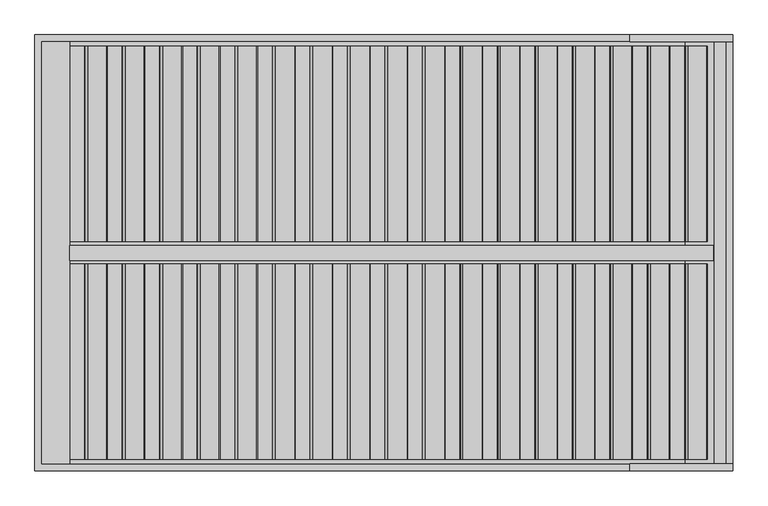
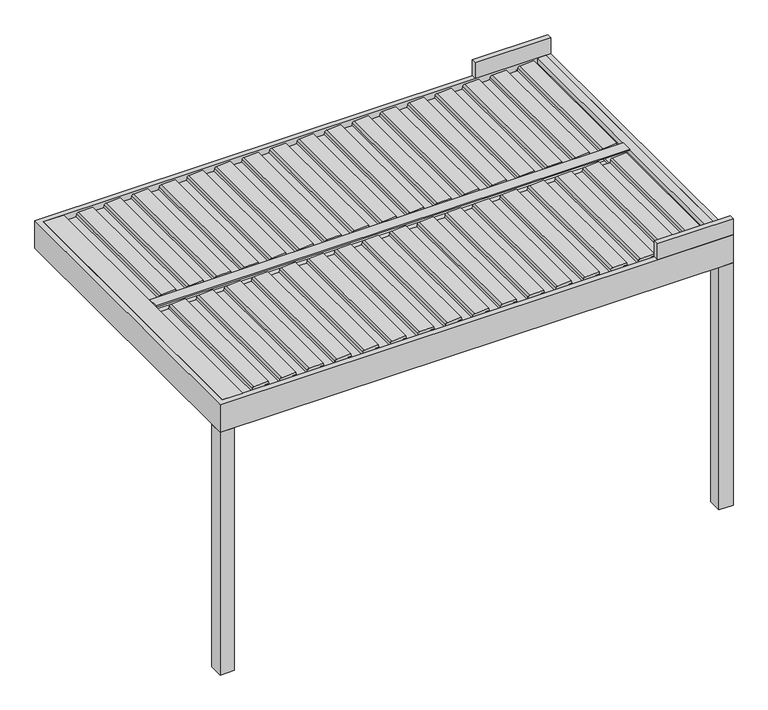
"""IFC4 building model written with IfcOpenShell, lengths in millimetres: proxy geometry, Renson_Algarve_Single Unit With Intermediate Beam : Algarve - Single Unit With Intermediate Beam."""

from ifc_helpers import new_model, si_unit, point, frame, frame_2d, origin, origin_with_axes, place, context, project, spatial, polyline, circle_curve, trimmed, segment, composite_curve, outline, extrude, faceted_brep, source, transform, mapped, element, save


def generic_models_9d3f019d(model_context):
    return source(origin(), model_context, "Body", "SolidModel", [
        extrude(outline(composite_curve([segment(polyline([(2188.35, 1609.6114167), (2216.01198, 1612.0315264), (2217.3970364, 1640.8667769), (2236.8911096, 1637.4294458), (2231.6075693, 1527.4323309)]), True, "CONTINUOUS"), segment(trimmed(circle_curve(frame_2d((2216.6248435, 1528.1520029)), 15.0), [point((2231.6075693, 1527.4323309))], [point((2219.2295662, 1513.3798866))], False, "CARTESIAN"), True, "CONTINUOUS"), segment(polyline([(2219.2295662, 1513.3798866), (2200.0, 1509.9891952), (2200.0, 1422.2534192), (2217.0788237, 1419.2419618), (2216.3450182, 1403.9649913), (2188.35, 1401.5157446), (2188.35, 1609.6114167)]), True, "CONTINUOUS")], self_intersect=False)), frame((0.0, -1810.0, 0.0), z_axis=(0.0, 1.0, 0.0), x_axis=(0.0, 0.0, 1.0)), (0.0, 0.0, 1.0), 1120.0),
        extrude(outline(composite_curve([segment(polyline([(2188.35, 1394.600612), (2216.01198, 1397.0207216), (2217.3970364, 1425.8559721), (2236.8911096, 1422.418641), (2231.6075693, 1312.4215261)]), True, "CONTINUOUS"), segment(trimmed(circle_curve(frame_2d((2216.6248435, 1313.1411981)), 15.0), [point((2231.6075693, 1312.4215261))], [point((2219.2295662, 1298.3690818))], False, "CARTESIAN"), True, "CONTINUOUS"), segment(polyline([(2219.2295662, 1298.3690818), (2200.0, 1294.9783904), (2200.0, 1207.2426144), (2217.0788237, 1204.231157), (2216.3450182, 1188.9541865), (2188.35, 1186.5049398), (2188.35, 1394.600612)]), True, "CONTINUOUS")], self_intersect=False)), frame((0.0, -1810.0, 0.0), z_axis=(0.0, 1.0, 0.0), x_axis=(0.0, 0.0, 1.0)), (0.0, 0.0, 1.0), 1120.0),
        extrude(outline(composite_curve([segment(polyline([(2188.35, 1179.5898072), (2216.01198, 1182.0099168), (2217.3970364, 1210.8451673), (2236.8911096, 1207.4078362), (2231.6075693, 1097.4107214)]), True, "CONTINUOUS"), segment(trimmed(circle_curve(frame_2d((2216.6248435, 1098.1303933)), 15.0), [point((2231.6075693, 1097.4107214))], [point((2219.2295662, 1083.358277))], False, "CARTESIAN"), True, "CONTINUOUS"), segment(polyline([(2219.2295662, 1083.358277), (2200.0, 1079.9675857), (2200.0, 992.2318096), (2217.0788237, 989.2203522), (2216.3450182, 973.9433817), (2188.35, 971.494135), (2188.35, 1179.5898072)]), True, "CONTINUOUS")], self_intersect=False)), frame((0.0, -1810.0, 0.0), z_axis=(0.0, 1.0, 0.0), x_axis=(0.0, 0.0, 1.0)), (0.0, 0.0, 1.0), 1120.0),
        extrude(outline(composite_curve([segment(polyline([(2188.35, 964.5790024), (2216.01198, 966.999112), (2217.3970364, 995.8343625), (2236.8911096, 992.3970314), (2231.6075693, 882.3999166)]), True, "CONTINUOUS"), segment(trimmed(circle_curve(frame_2d((2216.6248435, 883.1195885)), 15.0), [point((2231.6075693, 882.3999166))], [point((2219.2295662, 868.3474722))], False, "CARTESIAN"), True, "CONTINUOUS"), segment(polyline([(2219.2295662, 868.3474722), (2200.0, 864.9567809), (2200.0, 777.2210048), (2217.0788237, 774.2095474), (2216.3450182, 758.932577), (2188.35, 756.4833302), (2188.35, 964.5790024)]), True, "CONTINUOUS")], self_intersect=False)), frame((0.0, -1810.0, 0.0), z_axis=(0.0, 1.0, 0.0), x_axis=(0.0, 0.0, 1.0)), (0.0, 0.0, 1.0), 1120.0),
        extrude(outline(composite_curve([segment(polyline([(2188.35, 749.5681976), (2216.01198, 751.9883073), (2217.3970364, 780.8235577), (2236.8911096, 777.3862267), (2231.6075693, 667.3891118)]), True, "CONTINUOUS"), segment(trimmed(circle_curve(frame_2d((2216.6248435, 668.1087837)), 15.0), [point((2231.6075693, 667.3891118))], [point((2219.2295662, 653.3366674))], False, "CARTESIAN"), True, "CONTINUOUS"), segment(polyline([(2219.2295662, 653.3366674), (2200.0, 649.9459761), (2200.0, 562.2102001), (2217.0788237, 559.1987426), (2216.3450182, 543.9217722), (2188.35, 541.4725254), (2188.35, 749.5681976)]), True, "CONTINUOUS")], self_intersect=False)), frame((0.0, -1810.0, 0.0), z_axis=(0.0, 1.0, 0.0), x_axis=(0.0, 0.0, 1.0)), (0.0, 0.0, 1.0), 1120.0),
        extrude(outline(composite_curve([segment(polyline([(2188.35, 534.5573928), (2216.01198, 536.9775025), (2217.3970364, 565.8127529), (2236.8911096, 562.3754219), (2231.6075693, 452.378307)]), True, "CONTINUOUS"), segment(trimmed(circle_curve(frame_2d((2216.6248435, 453.0979789)), 15.0), [point((2231.6075693, 452.378307))], [point((2219.2295662, 438.3258627))], False, "CARTESIAN"), True, "CONTINUOUS"), segment(polyline([(2219.2295662, 438.3258627), (2200.0, 434.9351713), (2200.0, 347.1993953), (2217.0788237, 344.1879379), (2216.3450182, 328.9109674), (2188.35, 326.4617207), (2188.35, 534.5573928)]), True, "CONTINUOUS")], self_intersect=False)), frame((0.0, -1810.0, 0.0), z_axis=(0.0, 1.0, 0.0), x_axis=(0.0, 0.0, 1.0)), (0.0, 0.0, 1.0), 1120.0),
        extrude(outline(composite_curve([segment(polyline([(2188.35, 319.546588), (2216.01198, 321.9666977), (2217.3970364, 350.8019482), (2236.8911096, 347.3646171), (2231.6075693, 237.3675022)]), True, "CONTINUOUS"), segment(trimmed(circle_curve(frame_2d((2216.6248435, 238.0871742)), 15.0), [point((2231.6075693, 237.3675022))], [point((2219.2295662, 223.3150579))], False, "CARTESIAN"), True, "CONTINUOUS"), segment(polyline([(2219.2295662, 223.3150579), (2200.0, 219.9243665), (2200.0, 132.1885905), (2217.0788237, 129.1771331), (2216.3450182, 113.9001626), (2188.35, 111.4509159), (2188.35, 319.546588)]), True, "CONTINUOUS")], self_intersect=False)), frame((0.0, -1810.0, 0.0), z_axis=(0.0, 1.0, 0.0), x_axis=(0.0, 0.0, 1.0)), (0.0, 0.0, 1.0), 1120.0),
        extrude(outline(composite_curve([segment(polyline([(2188.35, 104.5357833), (2216.01198, 106.9558929), (2217.3970364, 135.7911434), (2236.8911096, 132.3538123), (2231.6075693, 22.3566975)]), True, "CONTINUOUS"), segment(trimmed(circle_curve(frame_2d((2216.6248435, 23.0763694)), 15.0), [point((2231.6075693, 22.3566975))], [point((2219.2295662, 8.3042531))], False, "CARTESIAN"), True, "CONTINUOUS"), segment(polyline([(2219.2295662, 8.3042531), (2200.0, 4.9135617), (2200.0, -82.8222143), (2217.0788237, -85.8336717), (2216.3450182, -101.1106422), (2188.35, -103.5598889), (2188.35, 104.5357833)]), True, "CONTINUOUS")], self_intersect=False)), frame((0.0, -1810.0, 0.0), z_axis=(0.0, 1.0, 0.0), x_axis=(0.0, 0.0, 1.0)), (0.0, 0.0, 1.0), 1120.0),
        extrude(outline(composite_curve([segment(polyline([(2188.35, -110.4750215), (2216.01198, -108.0549119), (2217.3970364, -79.2196614), (2236.8911096, -82.6569925), (2231.6075693, -192.6541073)]), True, "CONTINUOUS"), segment(trimmed(circle_curve(frame_2d((2216.6248435, -191.9344354)), 15.0), [point((2231.6075693, -192.6541073))], [point((2219.2295662, -206.7065517))], False, "CARTESIAN"), True, "CONTINUOUS"), segment(polyline([(2219.2295662, -206.7065517), (2200.0, -210.097243), (2200.0, -297.8330191), (2217.0788237, -300.8444765), (2216.3450182, -316.121447), (2188.35, -318.5706937), (2188.35, -110.4750215)]), True, "CONTINUOUS")], self_intersect=False)), frame((0.0, -1810.0, 0.0), z_axis=(0.0, 1.0, 0.0), x_axis=(0.0, 0.0, 1.0)), (0.0, 0.0, 1.0), 1120.0),
        extrude(outline(composite_curve([segment(polyline([(2188.35, -325.4858263), (2216.01198, -323.0657166), (2217.3970364, -294.2304662), (2236.8911096, -297.6677973), (2231.6075693, -407.6649121)]), True, "CONTINUOUS"), segment(trimmed(circle_curve(frame_2d((2216.6248435, -406.9452402)), 15.0), [point((2231.6075693, -407.6649121))], [point((2219.2295662, -421.7173565))], False, "CARTESIAN"), True, "CONTINUOUS"), segment(polyline([(2219.2295662, -421.7173565), (2200.0, -425.1080478), (2200.0, -512.8438238), (2217.0788237, -515.8552813), (2216.3450182, -531.1322517), (2188.35, -533.5814985), (2188.35, -325.4858263)]), True, "CONTINUOUS")], self_intersect=False)), frame((0.0, -1810.0, 0.0), z_axis=(0.0, 1.0, 0.0), x_axis=(0.0, 0.0, 1.0)), (0.0, 0.0, 1.0), 1120.0),
        extrude(outline(composite_curve([segment(polyline([(2188.35, -540.4966311), (2216.01198, -538.0765214), (2217.3970364, -509.241271), (2236.8911096, -512.678602), (2231.6075693, -622.6757169)]), True, "CONTINUOUS"), segment(trimmed(circle_curve(frame_2d((2216.6248435, -621.956045)), 15.0), [point((2231.6075693, -622.6757169))], [point((2219.2295662, -636.7281613))], False, "CARTESIAN"), True, "CONTINUOUS"), segment(polyline([(2219.2295662, -636.7281613), (2200.0, -640.1188526), (2200.0, -727.8546286), (2217.0788237, -730.866086), (2216.3450182, -746.1430565), (2188.35, -748.5923032), (2188.35, -540.4966311)]), True, "CONTINUOUS")], self_intersect=False)), frame((0.0, -1810.0, 0.0), z_axis=(0.0, 1.0, 0.0), x_axis=(0.0, 0.0, 1.0)), (0.0, 0.0, 1.0), 1120.0),
        extrude(outline(composite_curve([segment(polyline([(2188.35, -755.5074359), (2216.01198, -753.0873262), (2217.3970364, -724.2520757), (2236.8911096, -727.6894068), (2231.6075693, -837.6865217)]), True, "CONTINUOUS"), segment(trimmed(circle_curve(frame_2d((2216.6248435, -836.9668497)), 15.0), [point((2231.6075693, -837.6865217))], [point((2219.2295662, -851.738966))], False, "CARTESIAN"), True, "CONTINUOUS"), segment(polyline([(2219.2295662, -851.738966), (2200.0, -855.1296574), (2200.0, -942.8654334), (2217.0788237, -945.8768908), (2216.3450182, -961.1538613), (2188.35, -963.603108), (2188.35, -755.5074359)]), True, "CONTINUOUS")], self_intersect=False)), frame((0.0, -1810.0, 0.0), z_axis=(0.0, 1.0, 0.0), x_axis=(0.0, 0.0, 1.0)), (0.0, 0.0, 1.0), 1120.0),
        extrude(outline(composite_curve([segment(polyline([(2188.35, -970.5182406), (2216.01198, -968.098131), (2217.3970364, -939.2628805), (2236.8911096, -942.7002116), (2231.6075693, -1052.6973265)]), True, "CONTINUOUS"), segment(trimmed(circle_curve(frame_2d((2216.6248435, -1051.9776545)), 15.0), [point((2231.6075693, -1052.6973265))], [point((2219.2295662, -1066.7497708))], False, "CARTESIAN"), True, "CONTINUOUS"), segment(polyline([(2219.2295662, -1066.7497708), (2200.0, -1070.1404622), (2200.0, -1157.8762382), (2217.0788237, -1160.8876956), (2216.3450182, -1176.1646661), (2188.35, -1178.6139128), (2188.35, -970.5182406)]), True, "CONTINUOUS")], self_intersect=False)), frame((0.0, -1810.0, 0.0), z_axis=(0.0, 1.0, 0.0), x_axis=(0.0, 0.0, 1.0)), (0.0, 0.0, 1.0), 1120.0),
        extrude(outline(composite_curve([segment(polyline([(2188.35, -1185.5290454), (2216.01198, -1183.1089358), (2217.3970364, -1154.2736853), (2236.8911096, -1157.7110164), (2231.6075693, -1267.7081312)]), True, "CONTINUOUS"), segment(trimmed(circle_curve(frame_2d((2216.6248435, -1266.9884593)), 15.0), [point((2231.6075693, -1267.7081312))], [point((2219.2295662, -1281.7605756))], False, "CARTESIAN"), True, "CONTINUOUS"), segment(polyline([(2219.2295662, -1281.7605756), (2200.0, -1285.1512669), (2200.0, -1372.887043), (2217.0788237, -1375.8985004), (2216.3450182, -1391.1754709), (2188.35, -1393.6247176), (2188.35, -1185.5290454)]), True, "CONTINUOUS")], self_intersect=False)), frame((0.0, -1810.0, 0.0), z_axis=(0.0, 1.0, 0.0), x_axis=(0.0, 0.0, 1.0)), (0.0, 0.0, 1.0), 1120.0),
        extrude(outline(composite_curve([segment(polyline([(2188.35, -1400.5398502), (2216.01198, -1398.1197405), (2217.3970364, -1369.2844901), (2236.8911096, -1372.7218212), (2231.6075693, -1482.718936)]), True, "CONTINUOUS"), segment(trimmed(circle_curve(frame_2d((2216.6248435, -1481.9992641)), 15.0), [point((2231.6075693, -1482.718936))], [point((2219.2295662, -1496.7713804))], False, "CARTESIAN"), True, "CONTINUOUS"), segment(polyline([(2219.2295662, -1496.7713804), (2200.0, -1500.1620717), (2200.0, -1587.8978478), (2217.0788237, -1590.9093052), (2216.3450182, -1606.1862756), (2188.35, -1608.6355224), (2188.35, -1400.5398502)]), True, "CONTINUOUS")], self_intersect=False)), frame((0.0, -1810.0, 0.0), z_axis=(0.0, 1.0, 0.0), x_axis=(0.0, 0.0, 1.0)), (0.0, 0.0, 1.0), 1120.0),
        extrude(outline(composite_curve([segment(polyline([(2188.35, 1824.6222215), (2216.01198, 1827.0423312), (2217.3970364, 1855.8775816), (2236.8911096, 1852.4402506), (2231.6075693, 1742.4431357)]), True, "CONTINUOUS"), segment(trimmed(circle_curve(frame_2d((2216.6248435, 1743.1628076)), 15.0), [point((2231.6075693, 1742.4431357))], [point((2219.2295662, 1728.3906913))], False, "CARTESIAN"), True, "CONTINUOUS"), segment(polyline([(2219.2295662, 1728.3906913), (2200.0, 1725.0), (2200.0, 1637.264224), (2217.0788237, 1634.2527666), (2216.3450182, 1618.9757961), (2188.35, 1616.5265494), (2188.35, 1824.6222215)]), True, "CONTINUOUS")], self_intersect=False)), frame((0.0, -1810.0, 0.0), z_axis=(0.0, 1.0, 0.0), x_axis=(0.0, 0.0, 1.0)), (0.0, 0.0, 1.0), 1120.0),
        extrude(outline(composite_curve([segment(polyline([(2188.35, -1615.550655), (2216.01198, -1613.1305453), (2217.3970364, -1584.2952949), (2236.8911096, -1587.7326259), (2231.6075693, -1697.7297408)]), True, "CONTINUOUS"), segment(trimmed(circle_curve(frame_2d((2216.6248435, -1697.0100689)), 15.0), [point((2231.6075693, -1697.7297408))], [point((2219.2295662, -1711.7821852))], False, "CARTESIAN"), True, "CONTINUOUS"), segment(polyline([(2219.2295662, -1711.7821852), (2200.0, -1715.1728765), (2200.0, -1802.9086525), (2217.0788237, -1805.9201099), (2216.3450182, -1821.1970804), (2188.35, -1823.6463271), (2188.35, -1615.550655)]), True, "CONTINUOUS")], self_intersect=False)), frame((0.0, -1810.0, 0.0), z_axis=(0.0, 1.0, 0.0), x_axis=(0.0, 0.0, 1.0)), (0.0, 0.0, 1.0), 1120.0),
        extrude(outline(composite_curve([segment(polyline([(2188.35, 1609.6114167), (2216.01198, 1612.0315264), (2217.3970364, 1640.8667769), (2236.8911096, 1637.4294458), (2231.6075693, 1527.4323309)]), True, "CONTINUOUS"), segment(trimmed(circle_curve(frame_2d((2216.6248435, 1528.1520029)), 15.0), [point((2231.6075693, 1527.4323309))], [point((2219.2295662, 1513.3798866))], False, "CARTESIAN"), True, "CONTINUOUS"), segment(polyline([(2219.2295662, 1513.3798866), (2200.0, 1509.9891952), (2200.0, 1422.2534192), (2217.0788237, 1419.2419618), (2216.3450182, 1403.9649913), (2188.35, 1401.5157446), (2188.35, 1609.6114167)]), True, "CONTINUOUS")], self_intersect=False)), frame((0.0, -560.0, 0.0), z_axis=(0.0, 1.0, 0.0), x_axis=(0.0, 0.0, 1.0)), (0.0, 0.0, 1.0), 1120.0),
        extrude(outline(composite_curve([segment(polyline([(2188.35, 1394.600612), (2216.01198, 1397.0207216), (2217.3970364, 1425.8559721), (2236.8911096, 1422.418641), (2231.6075693, 1312.4215261)]), True, "CONTINUOUS"), segment(trimmed(circle_curve(frame_2d((2216.6248435, 1313.1411981)), 15.0), [point((2231.6075693, 1312.4215261))], [point((2219.2295662, 1298.3690818))], False, "CARTESIAN"), True, "CONTINUOUS"), segment(polyline([(2219.2295662, 1298.3690818), (2200.0, 1294.9783904), (2200.0, 1207.2426144), (2217.0788237, 1204.231157), (2216.3450182, 1188.9541865), (2188.35, 1186.5049398), (2188.35, 1394.600612)]), True, "CONTINUOUS")], self_intersect=False)), frame((0.0, -560.0, 0.0), z_axis=(0.0, 1.0, 0.0), x_axis=(0.0, 0.0, 1.0)), (0.0, 0.0, 1.0), 1120.0),
        extrude(outline(composite_curve([segment(polyline([(2188.35, 1179.5898072), (2216.01198, 1182.0099168), (2217.3970364, 1210.8451673), (2236.8911096, 1207.4078362), (2231.6075693, 1097.4107214)]), True, "CONTINUOUS"), segment(trimmed(circle_curve(frame_2d((2216.6248435, 1098.1303933)), 15.0), [point((2231.6075693, 1097.4107214))], [point((2219.2295662, 1083.358277))], False, "CARTESIAN"), True, "CONTINUOUS"), segment(polyline([(2219.2295662, 1083.358277), (2200.0, 1079.9675857), (2200.0, 992.2318096), (2217.0788237, 989.2203522), (2216.3450182, 973.9433817), (2188.35, 971.494135), (2188.35, 1179.5898072)]), True, "CONTINUOUS")], self_intersect=False)), frame((0.0, -560.0, 0.0), z_axis=(0.0, 1.0, 0.0), x_axis=(0.0, 0.0, 1.0)), (0.0, 0.0, 1.0), 1120.0),
        extrude(outline(composite_curve([segment(polyline([(2188.35, 964.5790024), (2216.01198, 966.999112), (2217.3970364, 995.8343625), (2236.8911096, 992.3970314), (2231.6075693, 882.3999166)]), True, "CONTINUOUS"), segment(trimmed(circle_curve(frame_2d((2216.6248435, 883.1195885)), 15.0), [point((2231.6075693, 882.3999166))], [point((2219.2295662, 868.3474722))], False, "CARTESIAN"), True, "CONTINUOUS"), segment(polyline([(2219.2295662, 868.3474722), (2200.0, 864.9567809), (2200.0, 777.2210048), (2217.0788237, 774.2095474), (2216.3450182, 758.932577), (2188.35, 756.4833302), (2188.35, 964.5790024)]), True, "CONTINUOUS")], self_intersect=False)), frame((0.0, -560.0, 0.0), z_axis=(0.0, 1.0, 0.0), x_axis=(0.0, 0.0, 1.0)), (0.0, 0.0, 1.0), 1120.0),
        extrude(outline(composite_curve([segment(polyline([(2188.35, 749.5681976), (2216.01198, 751.9883073), (2217.3970364, 780.8235577), (2236.8911096, 777.3862267), (2231.6075693, 667.3891118)]), True, "CONTINUOUS"), segment(trimmed(circle_curve(frame_2d((2216.6248435, 668.1087837)), 15.0), [point((2231.6075693, 667.3891118))], [point((2219.2295662, 653.3366674))], False, "CARTESIAN"), True, "CONTINUOUS"), segment(polyline([(2219.2295662, 653.3366674), (2200.0, 649.9459761), (2200.0, 562.2102001), (2217.0788237, 559.1987426), (2216.3450182, 543.9217722), (2188.35, 541.4725254), (2188.35, 749.5681976)]), True, "CONTINUOUS")], self_intersect=False)), frame((0.0, -560.0, 0.0), z_axis=(0.0, 1.0, 0.0), x_axis=(0.0, 0.0, 1.0)), (0.0, 0.0, 1.0), 1120.0),
        extrude(outline(composite_curve([segment(polyline([(2188.35, 534.5573928), (2216.01198, 536.9775025), (2217.3970364, 565.8127529), (2236.8911096, 562.3754219), (2231.6075693, 452.378307)]), True, "CONTINUOUS"), segment(trimmed(circle_curve(frame_2d((2216.6248435, 453.0979789)), 15.0), [point((2231.6075693, 452.378307))], [point((2219.2295662, 438.3258627))], False, "CARTESIAN"), True, "CONTINUOUS"), segment(polyline([(2219.2295662, 438.3258627), (2200.0, 434.9351713), (2200.0, 347.1993953), (2217.0788237, 344.1879379), (2216.3450182, 328.9109674), (2188.35, 326.4617207), (2188.35, 534.5573928)]), True, "CONTINUOUS")], self_intersect=False)), frame((0.0, -560.0, 0.0), z_axis=(0.0, 1.0, 0.0), x_axis=(0.0, 0.0, 1.0)), (0.0, 0.0, 1.0), 1120.0),
        extrude(outline(composite_curve([segment(polyline([(2188.35, 319.546588), (2216.01198, 321.9666977), (2217.3970364, 350.8019482), (2236.8911096, 347.3646171), (2231.6075693, 237.3675022)]), True, "CONTINUOUS"), segment(trimmed(circle_curve(frame_2d((2216.6248435, 238.0871742)), 15.0), [point((2231.6075693, 237.3675022))], [point((2219.2295662, 223.3150579))], False, "CARTESIAN"), True, "CONTINUOUS"), segment(polyline([(2219.2295662, 223.3150579), (2200.0, 219.9243665), (2200.0, 132.1885905), (2217.0788237, 129.1771331), (2216.3450182, 113.9001626), (2188.35, 111.4509159), (2188.35, 319.546588)]), True, "CONTINUOUS")], self_intersect=False)), frame((0.0, -560.0, 0.0), z_axis=(0.0, 1.0, 0.0), x_axis=(0.0, 0.0, 1.0)), (0.0, 0.0, 1.0), 1120.0),
        extrude(outline(composite_curve([segment(polyline([(2188.35, 104.5357833), (2216.01198, 106.9558929), (2217.3970364, 135.7911434), (2236.8911096, 132.3538123), (2231.6075693, 22.3566975)]), True, "CONTINUOUS"), segment(trimmed(circle_curve(frame_2d((2216.6248435, 23.0763694)), 15.0), [point((2231.6075693, 22.3566975))], [point((2219.2295662, 8.3042531))], False, "CARTESIAN"), True, "CONTINUOUS"), segment(polyline([(2219.2295662, 8.3042531), (2200.0, 4.9135617), (2200.0, -82.8222143), (2217.0788237, -85.8336717), (2216.3450182, -101.1106422), (2188.35, -103.5598889), (2188.35, 104.5357833)]), True, "CONTINUOUS")], self_intersect=False)), frame((0.0, -560.0, 0.0), z_axis=(0.0, 1.0, 0.0), x_axis=(0.0, 0.0, 1.0)), (0.0, 0.0, 1.0), 1120.0),
        extrude(outline(composite_curve([segment(polyline([(2188.35, -110.4750215), (2216.01198, -108.0549119), (2217.3970364, -79.2196614), (2236.8911096, -82.6569925), (2231.6075693, -192.6541073)]), True, "CONTINUOUS"), segment(trimmed(circle_curve(frame_2d((2216.6248435, -191.9344354)), 15.0), [point((2231.6075693, -192.6541073))], [point((2219.2295662, -206.7065517))], False, "CARTESIAN"), True, "CONTINUOUS"), segment(polyline([(2219.2295662, -206.7065517), (2200.0, -210.097243), (2200.0, -297.8330191), (2217.0788237, -300.8444765), (2216.3450182, -316.121447), (2188.35, -318.5706937), (2188.35, -110.4750215)]), True, "CONTINUOUS")], self_intersect=False)), frame((0.0, -560.0, 0.0), z_axis=(0.0, 1.0, 0.0), x_axis=(0.0, 0.0, 1.0)), (0.0, 0.0, 1.0), 1120.0),
        extrude(outline(composite_curve([segment(polyline([(2188.35, -325.4858263), (2216.01198, -323.0657166), (2217.3970364, -294.2304662), (2236.8911096, -297.6677973), (2231.6075693, -407.6649121)]), True, "CONTINUOUS"), segment(trimmed(circle_curve(frame_2d((2216.6248435, -406.9452402)), 15.0), [point((2231.6075693, -407.6649121))], [point((2219.2295662, -421.7173565))], False, "CARTESIAN"), True, "CONTINUOUS"), segment(polyline([(2219.2295662, -421.7173565), (2200.0, -425.1080478), (2200.0, -512.8438238), (2217.0788237, -515.8552813), (2216.3450182, -531.1322517), (2188.35, -533.5814985), (2188.35, -325.4858263)]), True, "CONTINUOUS")], self_intersect=False)), frame((0.0, -560.0, 0.0), z_axis=(0.0, 1.0, 0.0), x_axis=(0.0, 0.0, 1.0)), (0.0, 0.0, 1.0), 1120.0),
        extrude(outline(composite_curve([segment(polyline([(2188.35, -540.4966311), (2216.01198, -538.0765214), (2217.3970364, -509.241271), (2236.8911096, -512.678602), (2231.6075693, -622.6757169)]), True, "CONTINUOUS"), segment(trimmed(circle_curve(frame_2d((2216.6248435, -621.956045)), 15.0), [point((2231.6075693, -622.6757169))], [point((2219.2295662, -636.7281613))], False, "CARTESIAN"), True, "CONTINUOUS"), segment(polyline([(2219.2295662, -636.7281613), (2200.0, -640.1188526), (2200.0, -727.8546286), (2217.0788237, -730.866086), (2216.3450182, -746.1430565), (2188.35, -748.5923032), (2188.35, -540.4966311)]), True, "CONTINUOUS")], self_intersect=False)), frame((0.0, -560.0, 0.0), z_axis=(0.0, 1.0, 0.0), x_axis=(0.0, 0.0, 1.0)), (0.0, 0.0, 1.0), 1120.0),
        extrude(outline(composite_curve([segment(polyline([(2188.35, -755.5074359), (2216.01198, -753.0873262), (2217.3970364, -724.2520757), (2236.8911096, -727.6894068), (2231.6075693, -837.6865217)]), True, "CONTINUOUS"), segment(trimmed(circle_curve(frame_2d((2216.6248435, -836.9668497)), 15.0), [point((2231.6075693, -837.6865217))], [point((2219.2295662, -851.738966))], False, "CARTESIAN"), True, "CONTINUOUS"), segment(polyline([(2219.2295662, -851.738966), (2200.0, -855.1296574), (2200.0, -942.8654334), (2217.0788237, -945.8768908), (2216.3450182, -961.1538613), (2188.35, -963.603108), (2188.35, -755.5074359)]), True, "CONTINUOUS")], self_intersect=False)), frame((0.0, -560.0, 0.0), z_axis=(0.0, 1.0, 0.0), x_axis=(0.0, 0.0, 1.0)), (0.0, 0.0, 1.0), 1120.0),
        extrude(outline(composite_curve([segment(polyline([(2188.35, -970.5182406), (2216.01198, -968.098131), (2217.3970364, -939.2628805), (2236.8911096, -942.7002116), (2231.6075693, -1052.6973265)]), True, "CONTINUOUS"), segment(trimmed(circle_curve(frame_2d((2216.6248435, -1051.9776545)), 15.0), [point((2231.6075693, -1052.6973265))], [point((2219.2295662, -1066.7497708))], False, "CARTESIAN"), True, "CONTINUOUS"), segment(polyline([(2219.2295662, -1066.7497708), (2200.0, -1070.1404622), (2200.0, -1157.8762382), (2217.0788237, -1160.8876956), (2216.3450182, -1176.1646661), (2188.35, -1178.6139128), (2188.35, -970.5182406)]), True, "CONTINUOUS")], self_intersect=False)), frame((0.0, -560.0, 0.0), z_axis=(0.0, 1.0, 0.0), x_axis=(0.0, 0.0, 1.0)), (0.0, 0.0, 1.0), 1120.0),
        extrude(outline(composite_curve([segment(polyline([(2188.35, -1185.5290454), (2216.01198, -1183.1089358), (2217.3970364, -1154.2736853), (2236.8911096, -1157.7110164), (2231.6075693, -1267.7081312)]), True, "CONTINUOUS"), segment(trimmed(circle_curve(frame_2d((2216.6248435, -1266.9884593)), 15.0), [point((2231.6075693, -1267.7081312))], [point((2219.2295662, -1281.7605756))], False, "CARTESIAN"), True, "CONTINUOUS"), segment(polyline([(2219.2295662, -1281.7605756), (2200.0, -1285.1512669), (2200.0, -1372.887043), (2217.0788237, -1375.8985004), (2216.3450182, -1391.1754709), (2188.35, -1393.6247176), (2188.35, -1185.5290454)]), True, "CONTINUOUS")], self_intersect=False)), frame((0.0, -560.0, 0.0), z_axis=(0.0, 1.0, 0.0), x_axis=(0.0, 0.0, 1.0)), (0.0, 0.0, 1.0), 1120.0),
        extrude(outline(composite_curve([segment(polyline([(2188.35, -1400.5398502), (2216.01198, -1398.1197405), (2217.3970364, -1369.2844901), (2236.8911096, -1372.7218212), (2231.6075693, -1482.718936)]), True, "CONTINUOUS"), segment(trimmed(circle_curve(frame_2d((2216.6248435, -1481.9992641)), 15.0), [point((2231.6075693, -1482.718936))], [point((2219.2295662, -1496.7713804))], False, "CARTESIAN"), True, "CONTINUOUS"), segment(polyline([(2219.2295662, -1496.7713804), (2200.0, -1500.1620717), (2200.0, -1587.8978478), (2217.0788237, -1590.9093052), (2216.3450182, -1606.1862756), (2188.35, -1608.6355224), (2188.35, -1400.5398502)]), True, "CONTINUOUS")], self_intersect=False)), frame((0.0, -560.0, 0.0), z_axis=(0.0, 1.0, 0.0), x_axis=(0.0, 0.0, 1.0)), (0.0, 0.0, 1.0), 1120.0),
        extrude(outline(composite_curve([segment(polyline([(2188.35, 1824.6222215), (2216.01198, 1827.0423312), (2217.3970364, 1855.8775816), (2236.8911096, 1852.4402506), (2231.6075693, 1742.4431357)]), True, "CONTINUOUS"), segment(trimmed(circle_curve(frame_2d((2216.6248435, 1743.1628076)), 15.0), [point((2231.6075693, 1742.4431357))], [point((2219.2295662, 1728.3906913))], False, "CARTESIAN"), True, "CONTINUOUS"), segment(polyline([(2219.2295662, 1728.3906913), (2200.0, 1725.0), (2200.0, 1637.264224), (2217.0788237, 1634.2527666), (2216.3450182, 1618.9757961), (2188.35, 1616.5265494), (2188.35, 1824.6222215)]), True, "CONTINUOUS")], self_intersect=False)), frame((0.0, -560.0, 0.0), z_axis=(0.0, 1.0, 0.0), x_axis=(0.0, 0.0, 1.0)), (0.0, 0.0, 1.0), 1120.0),
        extrude(outline(composite_curve([segment(polyline([(2188.35, -1615.550655), (2216.01198, -1613.1305453), (2217.3970364, -1584.2952949), (2236.8911096, -1587.7326259), (2231.6075693, -1697.7297408)]), True, "CONTINUOUS"), segment(trimmed(circle_curve(frame_2d((2216.6248435, -1697.0100689)), 15.0), [point((2231.6075693, -1697.7297408))], [point((2219.2295662, -1711.7821852))], False, "CARTESIAN"), True, "CONTINUOUS"), segment(polyline([(2219.2295662, -1711.7821852), (2200.0, -1715.1728765), (2200.0, -1802.9086525), (2217.0788237, -1805.9201099), (2216.3450182, -1821.1970804), (2188.35, -1823.6463271), (2188.35, -1615.550655)]), True, "CONTINUOUS")], self_intersect=False)), frame((0.0, -560.0, 0.0), z_axis=(0.0, 1.0, 0.0), x_axis=(0.0, 0.0, 1.0)), (0.0, 0.0, 1.0), 1120.0),
        extrude(outline(polyline([(2168.0, 1960.0), (2230.0, 1960.0), (2230.0, 1896.0), (2188.0, 1896.0), (2188.0, 1730.0), (2168.0, 1730.0), (2168.0, 1960.0)])), frame((0.0, -1835.0, 0.0), z_axis=(0.0, 1.0, 0.0), x_axis=(0.0, 0.0, 1.0)), (0.0, 0.0, 1.0), 2420.0),
        extrude(outline(polyline([(2230.0, -1800.0), (2230.0, -1960.0), (2186.0, -1960.0), (2186.0, -1827.3193336), (2219.1716603, -1824.4171894), (2220.344502, -1800.0), (2230.0, -1800.0)])), frame((0.0, -1835.0, 0.0), z_axis=(0.0, 1.0, 0.0), x_axis=(0.0, 0.0, 1.0)), (0.0, 0.0, 1.0), 2420.0),
        extrude(outline(polyline([(2000.0, -1835.0), (2000.0, -1875.0), (1410.0, -1875.0), (1410.0, -1835.0), (2000.0, -1835.0)])), frame((0.0, 0.0, 2230.0), z_axis=(0.0, 0.0, 1.0), x_axis=(1.0, 0.0, 0.0)), (0.0, 0.0, 1.0), 130.0),
        extrude(outline(polyline([(1890.0, -588.0), (-1890.0, -588.0), (-1890.0, -515.0), (1890.0, -515.0), (1890.0, -588.0)])), frame((0.0, 0.0, 2000.0), z_axis=(0.0, 0.0, 1.0), x_axis=(1.0, 0.0, 0.0)), (0.0, 0.0, 1.0), 90.0),
        extrude(outline(polyline([(1890.0, -662.0), (1890.0, -735.0), (-1890.0, -735.0), (-1890.0, -662.0), (1890.0, -662.0)])), frame((0.0, 0.0, 2000.0), z_axis=(0.0, 0.0, 1.0), x_axis=(1.0, 0.0, 0.0)), (0.0, 0.0, 1.0), 90.0),
        extrude(outline(polyline([(1890.0, -582.5), (1890.0, -667.5), (-1800.0, -667.5), (-1800.0, -582.5), (1890.0, -582.5)])), frame((0.0, 0.0, 2230.0), z_axis=(0.0, 0.0, 1.0), x_axis=(1.0, 0.0, 0.0)), (0.0, 0.0, 1.0), 10.0),
        faceted_brep([(1890.0, 515.0, 2057.0), (1890.0, 515.0, 2000.0), (1890.0, -1765.0, 2000.0), (1890.0, -1765.0, 2057.0), (2000.0, 625.0, 2000.0), (2000.0, 625.0, 2230.0), (2000.0, -1875.0, 2230.0), (2000.0, -1875.0, 2000.0), (1960.0, 585.0, 2230.0), (1960.0, 585.0, 2057.0), (1960.0, -1835.0, 2057.0), (1960.0, -1835.0, 2230.0), (-1890.0, -1765.0, 2000.0), (-1890.0, -1765.0, 2057.0), (-2000.0, -1875.0, 2230.0), (-2000.0, -1875.0, 2000.0), (-1960.0, -1835.0, 2057.0), (-1960.0, -1835.0, 2230.0), (-1890.0, 515.0, 2000.0), (-1890.0, 515.0, 2057.0), (-2000.0, 625.0, 2230.0), (-2000.0, 625.0, 2000.0), (-1960.0, 585.0, 2057.0), (-1960.0, 585.0, 2230.0)], [[[0, 1, 2, 3]], [[4, 5, 6, 7]], [[8, 9, 10, 11]], [[3, 2, 12, 13]], [[7, 6, 14, 15]], [[11, 10, 16, 17]], [[13, 12, 18, 19]], [[15, 14, 20, 21]], [[17, 16, 22, 23]], [[9, 22, 16, 10], [3, 13, 19, 0]], [[19, 18, 1, 0]], [[7, 15, 21, 4], [1, 18, 12, 2]], [[21, 20, 5, 4]], [[5, 20, 14, 6], [11, 17, 23, 8]], [[23, 22, 9, 8]]]),
        extrude(outline(polyline([(2000.0, -1765.0), (2000.0, -1875.0), (1890.0, -1875.0), (1890.0, -1765.0), (2000.0, -1765.0)])), origin_with_axes(), (0.0, 0.0, 1.0), 2000.0),
        extrude(outline(polyline([(-1890.0, -1765.0), (-1890.0, -1875.0), (-2000.0, -1875.0), (-2000.0, -1765.0), (-1890.0, -1765.0)])), origin_with_axes(), (0.0, 0.0, 1.0), 2000.0),
        extrude(outline(polyline([(2000.0, 625.0), (2000.0, 585.0), (1410.0, 585.0), (1410.0, 625.0), (2000.0, 625.0)])), frame((0.0, 0.0, 2230.0), z_axis=(0.0, 0.0, 1.0), x_axis=(1.0, 0.0, 0.0)), (0.0, 0.0, 1.0), 130.0),
    ])


if __name__ == "__main__":
    model = new_model("IFC4")
    model_context = context("Model", 3, world=origin())
    ifc_project = project(units=[si_unit("LENGTHUNIT", "METRE", prefix="MILLI")], contexts=[model_context])
    site = spatial("IfcSite", under=ifc_project)
    building = spatial("IfcBuilding", under=site)
    placement = place(None, origin())
    generic_models_shape = generic_models_9d3f019d(model_context)
    element("IfcBuildingElementProxy", 1, Name="Renson_Algarve_Single Unit With Intermediate Beam : Algarve - Single Unit With Intermediate Beam", ObjectType="Renson_Algarve_Single Unit With Intermediate Beam : Algarve - Single Unit With Intermediate Beam", at=placement, inside=building, context=model_context, shape_type="MappedRepresentation", body=[
        mapped(generic_models_shape, transform((0.0, 0.0, 0.0), x_axis=(1.0, 0.0, 0.0), y_axis=(0.0, 1.0, 0.0), z_axis=(0.0, 0.0, 1.0))),
    ])
    save(model, "model.ifc")
